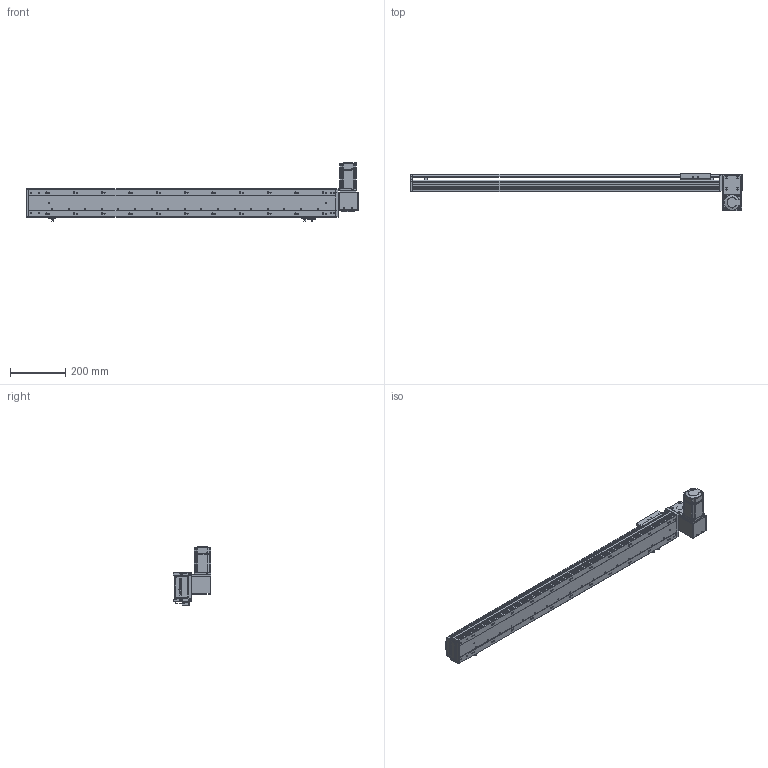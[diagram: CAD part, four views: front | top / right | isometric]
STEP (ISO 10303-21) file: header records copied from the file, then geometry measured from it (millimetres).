
FILE_DESCRIPTION (( 'STEP AP203' ), '1' );
FILE_NAME ('RY100-T-300-DR.SLDASM_900.step', '2024-04-25T03:22:47', ( '盈信电脑' ), ( '东莞市道滘镇水果街19号' ), 'SwSTEP 2.0', 'SolidWorks 2016', '' );
FILE_SCHEMA (( 'CONFIG_CONTROL_DESIGN' ));
Length unit declared in the file: millimetre
Products named in the file (16): 滅袉蝶18-10; RY100-T肮祭謫翋盓傅釱; 侂狟200W萇儂; RY100俋离覜茼え; RY80-T肮祭謫狟殏俋欶; RY100-T左右折电机安装板; RY100-T肮祭謫臏賑輸; RY100-T-300-RK倰第菁釱_900; 1; RY100綴裔啣; RY100-T-300-DR.SLDASM_900; RY100-T翋肮祭謫裔啣2; RY100-T翋肮祭謫裔啣; RY100-T-300-RK倰第奻裔_900; 覜茼ん672; RY100-T粣創揤踡裔
Assembly tree (19 placements, depth 3):
  RY100-T-300-DR.SLDASM_900
    RY100-T-300-RK倰第菁釱_900
    RY100-T-300-RK倰第奻裔_900
    RY100-T肮祭謫臏賑輸
    RY100綴裔啣
    覜茼ん672  x3
    RY100俋离覜茼え
    RY100-T肮祭謫翋盓傅釱
    RY100-T左右折电机安装板
    侂狟200W萇儂
      1
    RY100-T粣創揤踡裔
    滅袉蝶18-10  x2
    RY100-T翋肮祭謫裔啣2  x2
    RY100-T翋肮祭謫裔啣
    RY80-T肮祭謫狟殏俋欶
Bounding box: 1200 x 135.5 x 209.7 mm (x, y, z)
Volume: 2477038.1 mm3; surface area: 1025161.9 mm2
Topology: 18 solids, 18 shells, 2303 faces, 6435 edges, 4183 vertices
Faces by surface type: plane 1229, cylinder 857, cone 139, bspline 78
Entity records: 74540 total; most frequent: CARTESIAN_POINT 18254, ORIENTED_EDGE 11606, DIRECTION 11011, EDGE_CURVE 5803, VERTEX_POINT 3819, LINE 3693, VECTOR 3693, AXIS2_PLACEMENT_3D 3659
